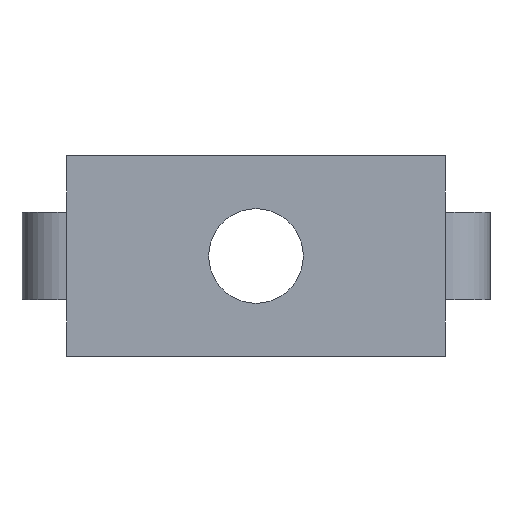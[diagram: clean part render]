
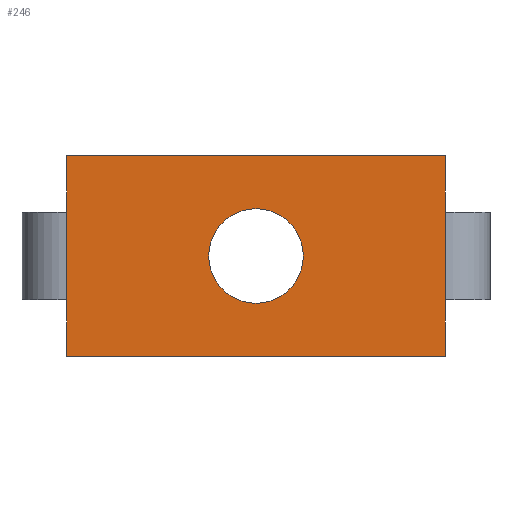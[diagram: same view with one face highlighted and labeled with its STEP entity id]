
A CAD part, front view. The second image highlights one B-rep face of the part: STEP entity #246.
In plain terms, the highlighted planar face has unit normal (0, -1, 0).
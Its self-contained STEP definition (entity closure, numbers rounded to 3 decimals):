
#11 = EDGE_CURVE ( 'NONE', #628, #113, #26, .T. ) ;
#12 = LINE ( 'NONE', #481, #510 ) ;
#16 = ORIENTED_EDGE ( 'NONE', *, *, #99, .F. ) ;
#26 = LINE ( 'NONE', #319, #693 ) ;
#28 = VERTEX_POINT ( 'NONE', #334 ) ;
#41 = ORIENTED_EDGE ( 'NONE', *, *, #800, .T. ) ;
#42 = CARTESIAN_POINT ( 'NONE',  ( -16., -1.8, -3.7 ) ) ;
#62 = CARTESIAN_POINT ( 'NONE',  ( -16., -1.8, 8.5 ) ) ;
#64 = DIRECTION ( 'NONE',  ( 0., 0., 1. ) ) ;
#65 = DIRECTION ( 'NONE',  ( 0., 0., -1. ) ) ;
#73 = DIRECTION ( 'NONE',  ( 0., 1., 0. ) ) ;
#78 = CIRCLE ( 'NONE', #695, 4. ) ;
#88 = AXIS2_PLACEMENT_3D ( 'NONE', #137, #73, #64 ) ;
#99 = EDGE_CURVE ( 'NONE', #150, #499, #819, .T. ) ;
#102 = LINE ( 'NONE', #199, #244 ) ;
#113 = VERTEX_POINT ( 'NONE', #129 ) ;
#117 = EDGE_CURVE ( 'NONE', #833, #113, #301, .T. ) ;
#127 = PLANE ( 'NONE',  #88 ) ;
#129 = CARTESIAN_POINT ( 'NONE',  ( 16., -1.8, 3.7 ) ) ;
#133 = CARTESIAN_POINT ( 'NONE',  ( 16., -1.8, 8.5 ) ) ;
#137 = CARTESIAN_POINT ( 'NONE',  ( 0., -1.8, 0. ) ) ;
#138 = CARTESIAN_POINT ( 'NONE',  ( 0., -1.8, 0. ) ) ;
#146 = EDGE_CURVE ( 'NONE', #331, #499, #102, .T. ) ;
#150 = VERTEX_POINT ( 'NONE', #463 ) ;
#158 = VERTEX_POINT ( 'NONE', #62 ) ;
#170 = LINE ( 'NONE', #541, #825 ) ;
#194 = VERTEX_POINT ( 'NONE', #570 ) ;
#199 = CARTESIAN_POINT ( 'NONE',  ( -16., -1.8, 3.7 ) ) ;
#208 = DIRECTION ( 'NONE',  ( 0., 0., 1. ) ) ;
#211 = EDGE_CURVE ( 'NONE', #331, #158, #382, .T. ) ;
#213 = VECTOR ( 'NONE', #412, 1000. ) ;
#244 = VECTOR ( 'NONE', #831, 1000. ) ;
#246 = ADVANCED_FACE ( 'NONE', ( #346, #671 ), #127, .F. ) ;
#255 = CARTESIAN_POINT ( 'NONE',  ( 16., -1.8, 8.5 ) ) ;
#256 = CARTESIAN_POINT ( 'NONE',  ( 16., -1.8, -3.7 ) ) ;
#262 = DIRECTION ( 'NONE',  ( 0., 0., 1. ) ) ;
#266 = VECTOR ( 'NONE', #65, 1000. ) ;
#268 = ORIENTED_EDGE ( 'NONE', *, *, #11, .T. ) ;
#287 = LINE ( 'NONE', #255, #769 ) ;
#296 = CARTESIAN_POINT ( 'NONE',  ( -16., -1.8, 3.7 ) ) ;
#301 = LINE ( 'NONE', #133, #266 ) ;
#319 = CARTESIAN_POINT ( 'NONE',  ( 16., -1.8, -3.7 ) ) ;
#331 = VERTEX_POINT ( 'NONE', #296 ) ;
#334 = CARTESIAN_POINT ( 'NONE',  ( 0., -1.8, -4. ) ) ;
#346 = FACE_BOUND ( 'NONE', #356, .T. ) ;
#356 = EDGE_LOOP ( 'NONE', ( #41, #440 ) ) ;
#379 = CARTESIAN_POINT ( 'NONE',  ( 0., -1.8, 0. ) ) ;
#382 = LINE ( 'NONE', #456, #213 ) ;
#386 = CARTESIAN_POINT ( 'NONE',  ( 16., -1.8, -8.5 ) ) ;
#404 = ORIENTED_EDGE ( 'NONE', *, *, #146, .T. ) ;
#406 = CARTESIAN_POINT ( 'NONE',  ( 16., -1.8, 8.5 ) ) ;
#407 = EDGE_CURVE ( 'NONE', #628, #637, #12, .T. ) ;
#412 = DIRECTION ( 'NONE',  ( 0., 0., 1. ) ) ;
#416 = EDGE_CURVE ( 'NONE', #637, #150, #170, .T. ) ;
#440 = ORIENTED_EDGE ( 'NONE', *, *, #482, .T. ) ;
#445 = DIRECTION ( 'NONE',  ( 0., 0., 1. ) ) ;
#449 = DIRECTION ( 'NONE',  ( 0., 0., 1. ) ) ;
#456 = CARTESIAN_POINT ( 'NONE',  ( -16., -1.8, 8.5 ) ) ;
#459 = CARTESIAN_POINT ( 'NONE',  ( -16., -1.8, 8.5 ) ) ;
#463 = CARTESIAN_POINT ( 'NONE',  ( -16., -1.8, -8.5 ) ) ;
#470 = AXIS2_PLACEMENT_3D ( 'NONE', #379, #813, #445 ) ;
#471 = ORIENTED_EDGE ( 'NONE', *, *, #211, .F. ) ;
#481 = CARTESIAN_POINT ( 'NONE',  ( 16., -1.8, 8.5 ) ) ;
#482 = EDGE_CURVE ( 'NONE', #28, #194, #786, .T. ) ;
#491 = ORIENTED_EDGE ( 'NONE', *, *, #117, .F. ) ;
#499 = VERTEX_POINT ( 'NONE', #42 ) ;
#510 = VECTOR ( 'NONE', #601, 1000. ) ;
#517 = ORIENTED_EDGE ( 'NONE', *, *, #533, .F. ) ;
#533 = EDGE_CURVE ( 'NONE', #158, #833, #287, .T. ) ;
#541 = CARTESIAN_POINT ( 'NONE',  ( 16., -1.8, -8.5 ) ) ;
#548 = ORIENTED_EDGE ( 'NONE', *, *, #416, .F. ) ;
#570 = CARTESIAN_POINT ( 'NONE',  ( 0., -1.8, 4. ) ) ;
#582 = DIRECTION ( 'NONE',  ( 0., 1., 0. ) ) ;
#601 = DIRECTION ( 'NONE',  ( 0., 0., -1. ) ) ;
#618 = EDGE_LOOP ( 'NONE', ( #16, #548, #789, #268, #491, #517, #471, #404 ) ) ;
#628 = VERTEX_POINT ( 'NONE', #256 ) ;
#637 = VERTEX_POINT ( 'NONE', #386 ) ;
#671 = FACE_OUTER_BOUND ( 'NONE', #618, .T. ) ;
#693 = VECTOR ( 'NONE', #262, 1000. ) ;
#695 = AXIS2_PLACEMENT_3D ( 'NONE', #138, #582, #208 ) ;
#737 = DIRECTION ( 'NONE',  ( -1., 0., 0. ) ) ;
#756 = DIRECTION ( 'NONE',  ( 1., 0., 0. ) ) ;
#769 = VECTOR ( 'NONE', #756, 1000. ) ;
#782 = VECTOR ( 'NONE', #449, 1000. ) ;
#786 = CIRCLE ( 'NONE', #470, 4. ) ;
#789 = ORIENTED_EDGE ( 'NONE', *, *, #407, .F. ) ;
#800 = EDGE_CURVE ( 'NONE', #194, #28, #78, .T. ) ;
#813 = DIRECTION ( 'NONE',  ( 0., 1., 0. ) ) ;
#819 = LINE ( 'NONE', #459, #782 ) ;
#825 = VECTOR ( 'NONE', #737, 1000. ) ;
#831 = DIRECTION ( 'NONE',  ( 0., 0., -1. ) ) ;
#833 = VERTEX_POINT ( 'NONE', #406 ) ;
